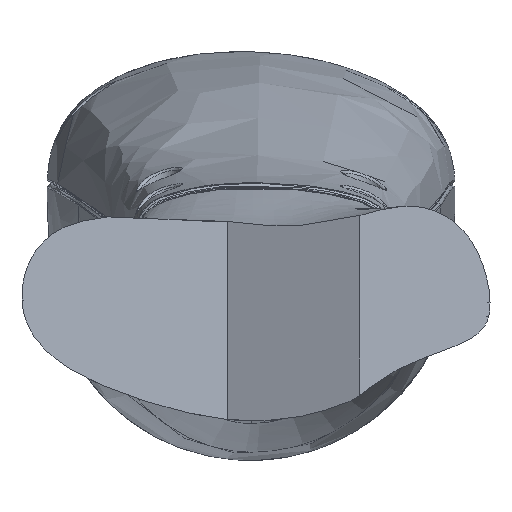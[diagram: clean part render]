
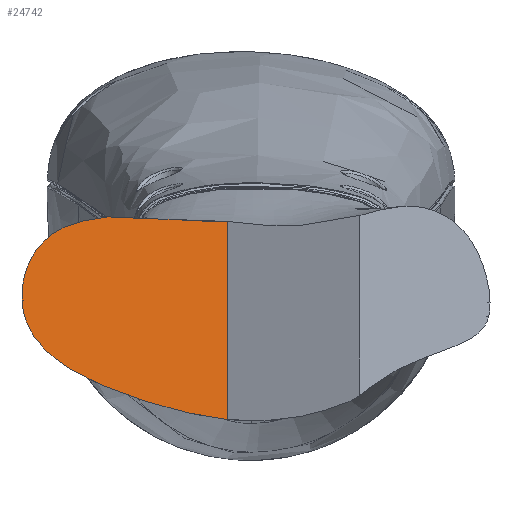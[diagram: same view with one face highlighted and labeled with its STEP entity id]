
A CAD part, left-side view. The second image highlights one B-rep face of the part: STEP entity #24742.
In plain terms, the highlighted planar face has unit normal (-0.93, -0.368, 0) as drawn and (-0.368, -0.93, 0) by its records, which use the part's own axes.
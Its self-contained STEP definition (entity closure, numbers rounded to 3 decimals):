
#1033 = DIRECTION ( 'NONE',  ( 0., 0., 1. ) ) ;
#1295 = CARTESIAN_POINT ( 'NONE',  ( -2067.859, -106.181, -45.011 ) ) ;
#3237 = CARTESIAN_POINT ( 'NONE',  ( -2048.351, -113.913, -74.262 ) ) ;
#4211 = CARTESIAN_POINT ( 'NONE',  ( -2049.497, -113.459, -74.509 ) ) ;
#4290 = VECTOR ( 'NONE', #1033, 1000. ) ;
#5996 = CARTESIAN_POINT ( 'NONE',  ( -2039.022, -117.611, -62.346 ) ) ;
#6720 = CARTESIAN_POINT ( 'NONE',  ( -2039.046, -117.601, -61.934 ) ) ;
#7212 = CARTESIAN_POINT ( 'NONE',  ( -2044.797, -115.322, -53.126 ) ) ;
#11086 = CARTESIAN_POINT ( 'NONE',  ( -2039.075, -117.59, -64.448 ) ) ;
#11571 = CARTESIAN_POINT ( 'NONE',  ( -2067.85, -106.185, -74.037 ) ) ;
#12067 = CARTESIAN_POINT ( 'NONE',  ( -2039.003, -117.618, -62.766 ) ) ;
#13858 = CARTESIAN_POINT ( 'NONE',  ( -2038.998, -117.62, -63.187 ) ) ;
#16026 = CARTESIAN_POINT ( 'NONE',  ( -2050.947, -112.884, -49.851 ) ) ;
#17220 = CARTESIAN_POINT ( 'NONE',  ( -2069.382, -105.577, -113.664 ) ) ;
#18460 = CARTESIAN_POINT ( 'NONE',  ( -2054.845, -111.339, -74.737 ) ) ;
#19422 = CARTESIAN_POINT ( 'NONE',  ( -2040.051, -117.203, -68.058 ) ) ;
#21211 = CARTESIAN_POINT ( 'NONE',  ( -2066.318, -106.792, -74.014 ) ) ;
#21454 = CARTESIAN_POINT ( 'NONE',  ( -2040.862, -116.881, -57.001 ) ) ;
#21687 = CARTESIAN_POINT ( 'NONE',  ( -2047.97, -114.064, -74.17 ) ) ;
#22427 = CARTESIAN_POINT ( 'NONE',  ( -2066.351, -106.779, -45.258 ) ) ;
#23396 = CARTESIAN_POINT ( 'NONE',  ( -2050.241, -113.164, -50.161 ) ) ;
#24225 = CARTESIAN_POINT ( 'NONE',  ( -2069.382, -105.577, -74.088 ) ) ;
#24742 = ADVANCED_FACE ( 'NONE', ( #40692 ), #85317, .F. ) ;
#26786 = CARTESIAN_POINT ( 'NONE',  ( -2042.995, -116.036, -71.893 ) ) ;
#29051 = CARTESIAN_POINT ( 'NONE',  ( -2041.082, -116.794, -69.821 ) ) ;
#29772 = CARTESIAN_POINT ( 'NONE',  ( -2043.29, -115.919, -54.381 ) ) ;
#30258 = CARTESIAN_POINT ( 'NONE',  ( -2039.567, -117.395, -59.528 ) ) ;
#30756 = CARTESIAN_POINT ( 'NONE',  ( -2048.842, -113.719, -50.818 ) ) ;
#32862 = DIRECTION ( 'NONE',  ( -0.93, 0.368, 0. ) ) ;
#32994 = EDGE_LOOP ( 'NONE', ( #53282, #80156, #77843 ) ) ;
#33161 = CARTESIAN_POINT ( 'NONE',  ( -2039.033, -117.606, -64.029 ) ) ;
#34130 = CARTESIAN_POINT ( 'NONE',  ( -2046.841, -114.512, -73.851 ) ) ;
#36377 = CARTESIAN_POINT ( 'NONE',  ( -2058.668, -109.824, -74.371 ) ) ;
#37601 = CARTESIAN_POINT ( 'NONE',  ( -2048.147, -113.994, -51.168 ) ) ;
#38574 = CARTESIAN_POINT ( 'NONE',  ( -2039.091, -117.583, -61.521 ) ) ;
#40692 = FACE_OUTER_BOUND ( 'NONE', #32994, .T. ) ;
#41486 = CARTESIAN_POINT ( 'NONE',  ( -2063.256, -108.006, -74.056 ) ) ;
#43988 = CARTESIAN_POINT ( 'NONE',  ( -2057.437, -110.312, -47.47 ) ) ;
#44965 = CARTESIAN_POINT ( 'NONE',  ( -2042.995, -116.036, -54.643 ) ) ;
#48349 = CARTESIAN_POINT ( 'NONE',  ( -2039.011, -117.615, -62.556 ) ) ;
#48779 = CARTESIAN_POINT ( 'NONE',  ( -2039.022, -117.611, -62.346 ) ) ;
#50739 = EDGE_CURVE ( 'NONE', #63751, #83677, #93527, .T. ) ;
#51095 = CARTESIAN_POINT ( 'NONE',  ( -2051.788, -112.551, -74.795 ) ) ;
#51574 = CARTESIAN_POINT ( 'NONE',  ( -2039.47, -117.433, -66.49 ) ) ;
#52806 = AXIS2_PLACEMENT_3D ( 'NONE', #70578, #84825, #32862 ) ;
#53280 = CARTESIAN_POINT ( 'NONE',  ( -2039.022, -117.611, -62.346 ) ) ;
#53282 = ORIENTED_EDGE ( 'NONE', *, *, #50739, .T. ) ;
#53491 = LINE ( 'NONE', #17220, #4290 ) ;
#55696 = CARTESIAN_POINT ( 'NONE',  ( -2043.632, -115.784, -72.36 ) ) ;
#56173 = CARTESIAN_POINT ( 'NONE',  ( -2047.215, -114.363, -73.965 ) ) ;
#57027 = EDGE_CURVE ( 'NONE', #76792, #83677, #53491, .T. ) ;
#57335 = CARTESIAN_POINT ( 'NONE',  ( -2069.382, -105.577, -44.848 ) ) ;
#58927 = CARTESIAN_POINT ( 'NONE',  ( -2039.263, -117.515, -65.685 ) ) ;
#59174 = CARTESIAN_POINT ( 'NONE',  ( -2046.104, -114.804, -52.288 ) ) ;
#60133 = CARTESIAN_POINT ( 'NONE',  ( -2069.382, -105.577, -44.848 ) ) ;
#60615 = CARTESIAN_POINT ( 'NONE',  ( -2054.523, -111.467, -48.441 ) ) ;
#63751 = VERTEX_POINT ( 'NONE', #48779 ) ;
#64008 = CARTESIAN_POINT ( 'NONE',  ( -2045.737, -114.949, -73.453 ) ) ;
#66298 = CARTESIAN_POINT ( 'NONE',  ( -2042.124, -116.381, -71.073 ) ) ;
#67025 = CARTESIAN_POINT ( 'NONE',  ( -2039.232, -117.527, -60.705 ) ) ;
#67505 = CARTESIAN_POINT ( 'NONE',  ( -2061.869, -108.555, -46.224 ) ) ;
#68469 = CARTESIAN_POINT ( 'NONE',  ( -2053.08, -112.039, -48.97 ) ) ;
#70390 = CARTESIAN_POINT ( 'NONE',  ( -2052.552, -112.248, -74.822 ) ) ;
#70578 = CARTESIAN_POINT ( 'NONE',  ( -2069.382, -105.577, -113.664 ) ) ;
#71364 = CARTESIAN_POINT ( 'NONE',  ( -2054.081, -111.642, -74.792 ) ) ;
#71589 = EDGE_CURVE ( 'NONE', #76792, #63751, #87463, .T. ) ;
#73168 = CARTESIAN_POINT ( 'NONE',  ( -2045.018, -115.234, -73.132 ) ) ;
#73631 = CARTESIAN_POINT ( 'NONE',  ( -2057.139, -110.43, -74.522 ) ) ;
#74364 = CARTESIAN_POINT ( 'NONE',  ( -2040.047, -117.204, -58.405 ) ) ;
#74856 = CARTESIAN_POINT ( 'NONE',  ( -2041.344, -116.69, -56.366 ) ) ;
#75335 = CARTESIAN_POINT ( 'NONE',  ( -2063.356, -107.966, -45.865 ) ) ;
#76792 = VERTEX_POINT ( 'NONE', #24225 ) ;
#77843 = ORIENTED_EDGE ( 'NONE', *, *, #71589, .T. ) ;
#78720 = CARTESIAN_POINT ( 'NONE',  ( -2069.382, -105.577, -74.088 ) ) ;
#79219 = CARTESIAN_POINT ( 'NONE',  ( -2061.726, -108.612, -74.124 ) ) ;
#80156 = ORIENTED_EDGE ( 'NONE', *, *, #57027, .F. ) ;
#81012 = CARTESIAN_POINT ( 'NONE',  ( -2044.662, -115.375, -72.952 ) ) ;
#81481 = CARTESIAN_POINT ( 'NONE',  ( -2039.003, -117.618, -63.398 ) ) ;
#81731 = CARTESIAN_POINT ( 'NONE',  ( -2042.141, -116.375, -55.478 ) ) ;
#83677 = VERTEX_POINT ( 'NONE', #57335 ) ;
#84825 = DIRECTION ( 'NONE',  ( 0.368, 0.93, 0. ) ) ;
#85317 = PLANE ( 'NONE',  #52806 ) ;
#85617 = CARTESIAN_POINT ( 'NONE',  ( -2056.374, -110.733, -74.602 ) ) ;
#87463 = B_SPLINE_CURVE_WITH_KNOTS ( 'NONE', 3,
 ( #78720, #11571, #21211, #41486, #79219, #93955, #36377, #73631, #85617, #18460, #71364, #70390, #51095, #93474, #4211, #3237, #21687, #56173, #34130, #96208, #64008, #73168, #81012, #55696, #26786, #66298, #88850, #88369, #29051, #95735, #19422, #51574, #58927, #11086, #33161, #81481, #13858, #12067, #48349, #5996 ),
 .UNSPECIFIED., .F., .F.,
 ( 4, 2, 2, 2, 2, 2, 2, 2, 2, 2, 2, 2, 2, 2, 2, 2, 2, 2, 2, 4 ),
 ( 0., 0.005, 0.01, 0.012, 0.015, 0.017, 0.02, 0.022, 0.023, 0.025, 0.026, 0.027, 0.03, 0.031, 0.032, 0.035, 0.037, 0.038, 0.039, 0.04 ),
 .UNSPECIFIED. ) ;
#88369 = CARTESIAN_POINT ( 'NONE',  ( -2041.324, -116.698, -70.15 ) ) ;
#88613 = CARTESIAN_POINT ( 'NONE',  ( -2039.327, -117.49, -60.306 ) ) ;
#88850 = CARTESIAN_POINT ( 'NONE',  ( -2041.847, -116.491, -70.78 ) ) ;
#89577 = CARTESIAN_POINT ( 'NONE',  ( -2039.711, -117.338, -59.148 ) ) ;
#90074 = CARTESIAN_POINT ( 'NONE',  ( -2042.42, -116.264, -55.191 ) ) ;
#90557 = CARTESIAN_POINT ( 'NONE',  ( -2040.239, -117.128, -58.041 ) ) ;
#93474 = CARTESIAN_POINT ( 'NONE',  ( -2050.26, -113.156, -74.636 ) ) ;
#93527 = B_SPLINE_CURVE_WITH_KNOTS ( 'NONE', 3,
 ( #53280, #6720, #38574, #67025, #88613, #30258, #89577, #74364, #90557, #21454, #74856, #81731, #90074, #44965, #29772, #7212, #59174, #37601, #30756, #23396, #16026, #68469, #60615, #43988, #96464, #67505, #75335, #22427, #1295, #60133 ),
 .UNSPECIFIED., .F., .F.,
 ( 4, 2, 2, 2, 2, 2, 2, 2, 2, 2, 2, 2, 2, 2, 4 ),
 ( 0.003, 0.004, 0.006, 0.007, 0.008, 0.01, 0.012, 0.013, 0.018, 0.02, 0.023, 0.028, 0.033, 0.038, 0.043 ),
 .UNSPECIFIED. ) ;
#93955 = CARTESIAN_POINT ( 'NONE',  ( -2059.432, -109.521, -74.301 ) ) ;
#95735 = CARTESIAN_POINT ( 'NONE',  ( -2040.417, -117.058, -68.794 ) ) ;
#96208 = CARTESIAN_POINT ( 'NONE',  ( -2046.102, -114.804, -73.595 ) ) ;
#96464 = CARTESIAN_POINT ( 'NONE',  ( -2058.91, -109.728, -47.026 ) ) ;
